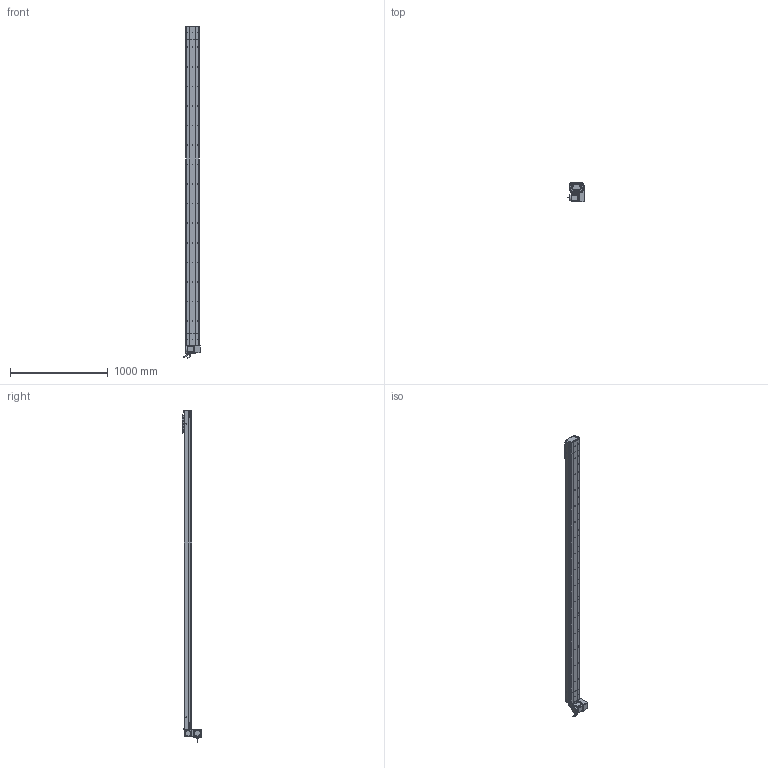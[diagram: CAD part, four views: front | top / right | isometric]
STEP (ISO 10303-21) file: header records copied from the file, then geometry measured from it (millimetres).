
FILE_DESCRIPTION (( 'STEP AP214' ), '1' );
FILE_NAME ('D14 CBH S3000 LU.STEP', '2010-06-30T07:43:40', ( 'Conseil Régional Haute-Normandie' ), ( 'Conseil Régional Haute-Normandie' ), 'SwSTEP 2.0', 'SolidWorks 2010', '' );
FILE_SCHEMA (( 'AUTOMOTIVE_DESIGN' ));
Length unit declared in the file: millimetre
Products named in the file (28): vis CHC M5; Head D14 CBH LU; corps CBH S3000; couvercle CBH S3000; D14 CBH S3000 LU; corps Head D14 CBH; corps GMB 90 70 310; avant GMB 90 70 310; GMB 90 70 310; Support moteur Head D14 CBH; plaque fermeture Head D14 CBH; Vis CHC M8; plaque de maintient CBH D14; couvercle Head D14 CBH; vis CHC M7; plaque de bout Head D14 CBH; Course CBH S3000; Conecteur2_Default; Conecteur_Default; chariot D14; corps tail  CBH d14 B; chariot supérieur D14; charriot inférieur D14; Tail CBH D14 B; codeur GMB 90 70 310; Head D14 CBH; plaque de bout tail CBH d14; couvercle tail CBH D14
Assembly tree (51 placements, depth 4):
  D14 CBH S3000 LU
    Head D14 CBH LU
      GMB 90 70 310
        corps GMB 90 70 310
        codeur GMB 90 70 310
        Conecteur2_Default
        avant GMB 90 70 310
        Conecteur_Default
      Support moteur Head D14 CBH
      Head D14 CBH
        vis CHC M7  x4
        plaque de bout Head D14 CBH
        Vis CHC M8  x2
        plaque de maintient CBH D14
        couvercle Head D14 CBH
        corps Head D14 CBH
      plaque fermeture Head D14 CBH  x3
    Course CBH S3000
      corps CBH S3000
      couvercle CBH S3000
    Tail CBH D14 B
      corps tail  CBH d14 B
      Vis CHC M8  x2
      plaque de bout tail CBH d14
      vis CHC M7  x4
      plaque de maintient CBH D14
      couvercle tail CBH D14
    chariot D14
      vis CHC M5  x4
      vis CHC M7  x8
      chariot supérieur D14
      charriot inférieur D14
Bounding box: 171.5 x 195.75 x 3395.95 mm (x, y, z)
Volume: 9055794.8 mm3; surface area: 3138582.7 mm2
Topology: 51 solids, 51 shells, 2522 faces, 6560 edges, 4308 vertices
Faces by surface type: plane 1371, bspline 538, cylinder 500, torus 61, cone 48, sphere 4
Entity records: 111669 total; most frequent: CARTESIAN_POINT 58568, ORIENTED_EDGE 11416, DIRECTION 8763, EDGE_CURVE 5708, VERTEX_POINT 3772, VECTOR 3741, LINE 3741, AXIS2_PLACEMENT_3D 2511
